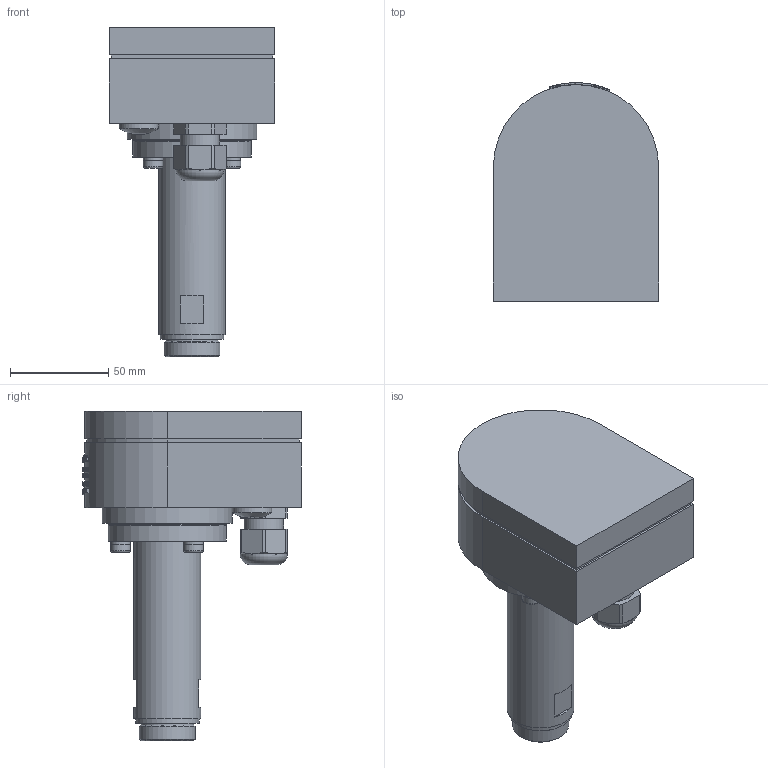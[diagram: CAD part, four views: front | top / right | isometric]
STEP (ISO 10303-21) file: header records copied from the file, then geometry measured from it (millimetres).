
FILE_DESCRIPTION(/* description */ (''),/* implementation_level */ '2;1');
FILE_NAME(/* name */ 'P:\ILC\LC-L-MA-L\LC-L-MA-L.stp',/* time_stamp */ '2020-06-05T13:02:12+02:00',/* author */ ('neufeld'),/* organization */ (''),/* preprocessor_version */ 'ST-DEVELOPER v17',/* originating_system */ 'Autodesk Inventor 2019',/* authorisation */ '');
FILE_SCHEMA (('AUTOMOTIVE_DESIGN { 1 0 10303 214 3 1 1 }'));
Products named in the file (1): LC-L-MA-L_AG-Kunde
Bounding box: 84 x 111 x 167.5 mm (x, y, z)
Volume: 564677.3 mm3; surface area: 56052.5 mm2
Topology: 1 solids, 2 shells, 1209 faces, 3287 edges, 2205 vertices
Faces by surface type: plane 716, bspline 348, cylinder 127, cone 11, torus 7
Full cylindrical faces by diameter (mm): 6 x3, 6.7 x3, 10 x3, 10.9 x1, 13.5 x1, 20 x2, 22.2 x1, 26.7 x1, 28.1 x1, 28.45 x1, 28.81 x1, 32.15 x1, 34 x1, 36.8 x1, 55.551 x1, 60 x1, 66 x1
Entity records: 49936 total; most frequent: CARTESIAN_POINT 20814, ORIENTED_EDGE 6552, DIRECTION 5103, EDGE_CURVE 3276, VERTEX_POINT 2189, AXIS2_PLACEMENT_3D 1758, LINE 1587, VECTOR 1587
